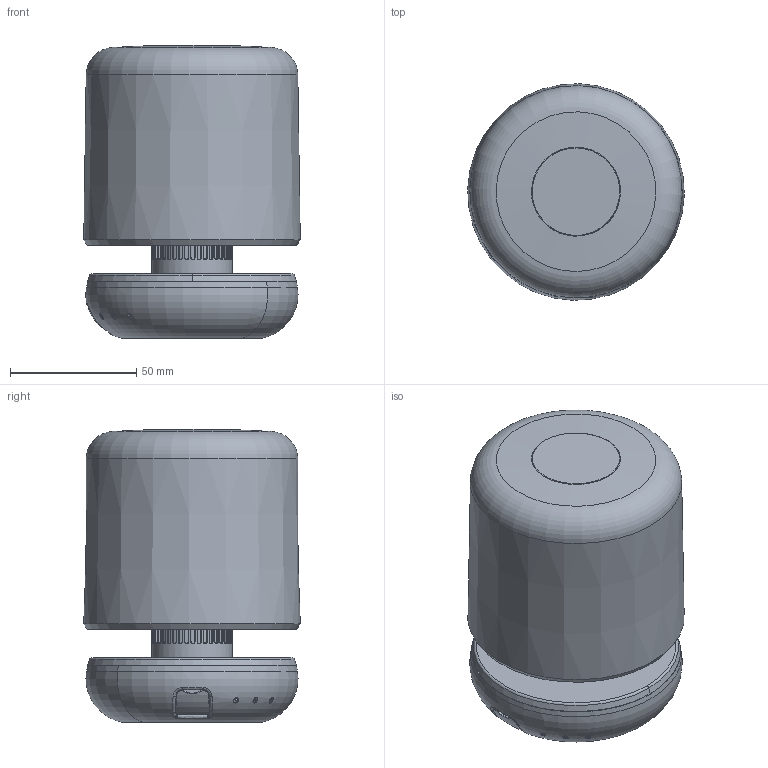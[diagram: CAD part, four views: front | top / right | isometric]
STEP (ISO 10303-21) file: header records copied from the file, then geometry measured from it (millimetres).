
FILE_DESCRIPTION(/* description */ ('STEP AP242','CAx-IF Rec.Pracs.---Representation and Presentation of Product Manufacturing Information (PMI)---4.0---2014-10-13','CAx-IF Rec.Pracs.---3D Tessellated Geometry---0.4---2014-09-14','2;1'),/* implementation_level */ '2;1');
FILE_NAME(/* name */ '663b215359deec2ccd9d8f79',/* time_stamp */ '2024-05-08T06:53:09Z',/* author */ (''),/* organization */ (''),/* preprocessor_version */ 'ST-DEVELOPER v20',/* originating_system */ ' ',/* authorisation */ ' ');
FILE_SCHEMA (('AP242_MANAGED_MODEL_BASED_3D_ENGINEERING_MIM_LF { 1 0 10303 442 1 1 4 }'));
Length unit declared in the file: metre
Products named in the file (14): humbletwobaseTea(shadevariant); <humbletworubber>-<HumbleTWO-1-solid11>; metalenhuls; V3teaglass2-3-4-2023(shadevariant)
Bounding box: 85.89 x 85.89 x 116.41 mm (x, y, z)
Volume: 184283.8 mm3; surface area: 121920.8 mm2
Topology: 14 solids, 18 shells, 904 faces, 2169 edges, 1291 vertices
Faces by surface type: cylinder 407, bspline 218, plane 171, torus 61, cone 30, sphere 17
Full cylindrical faces by diameter (mm): 1.8 x1, 2 x1, 24 x1, 26 x5, 27 x3, 27.6 x1, 30 x1, 30.5 x1, 32.1 x1, 35.11 x1, 35.31 x1, 54 x1, 76.819 x1, 79.61 x1, 82.295 x1
Entity records: 36068 total; most frequent: CARTESIAN_POINT 16791, ORIENTED_EDGE 4156, DIRECTION 3541, EDGE_CURVE 2078, AXIS2_PLACEMENT_3D 1406, VERTEX_POINT 1257, EDGE_LOOP 1027, FACE_BOUND 1027
